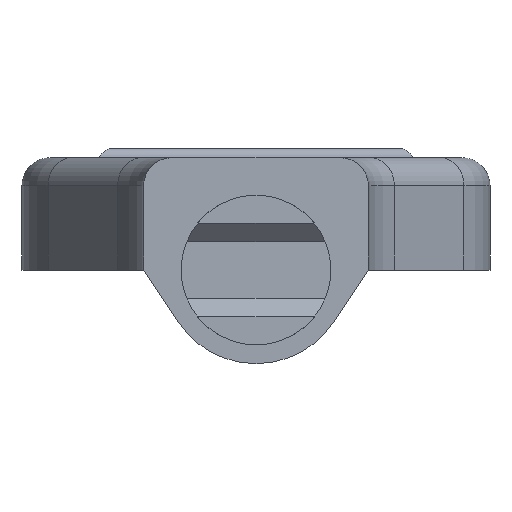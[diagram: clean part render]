
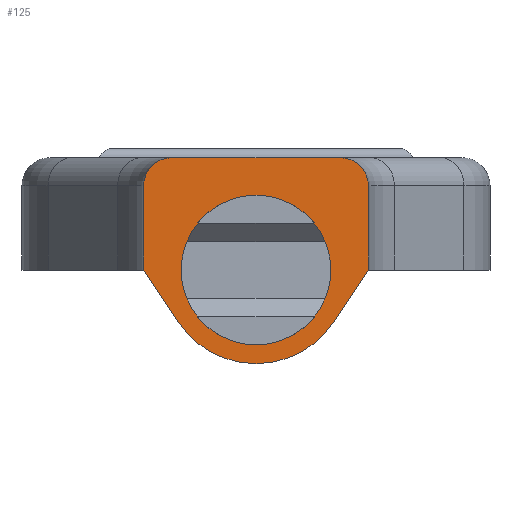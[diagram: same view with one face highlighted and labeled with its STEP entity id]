
A CAD part, left-side view. The second image highlights one B-rep face of the part: STEP entity #125.
In plain terms, the highlighted planar face has unit normal (-1, 0, 0).
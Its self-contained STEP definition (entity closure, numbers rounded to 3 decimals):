
#52=VECTOR('Line Direction',#51,1.) ;
#59=VECTOR('Line Direction',#58,1.) ;
#73=VECTOR('Line Direction',#72,1.) ;
#80=VECTOR('Line Direction',#79,1.) ;
#94=VECTOR('Line Direction',#93,1.) ;
#37=DIRECTION('Axis2P3D Direction',(1.,0.,0.)) ;
#38=DIRECTION('Axis2P3D XDirection',(0.,1.,0.)) ;
#42=DIRECTION('Axis2P3D Direction',(1.,0.,0.)) ;
#51=DIRECTION('Vector Direction',(0.,0.,1.)) ;
#58=DIRECTION('Vector Direction',(0.,0.553,0.833)) ;
#65=DIRECTION('Axis2P3D Direction',(1.,0.,0.)) ;
#72=DIRECTION('Vector Direction',(0.,0.553,-0.833)) ;
#79=DIRECTION('Vector Direction',(0.,0.,1.)) ;
#86=DIRECTION('Axis2P3D Direction',(1.,0.,0.)) ;
#93=DIRECTION('Vector Direction',(0.,1.,0.)) ;
#108=DIRECTION('Axis2P3D Direction',(1.,0.,0.)) ;
#117=DIRECTION('Axis2P3D Direction',(1.,0.,0.)) ;
#36=CARTESIAN_POINT('Axis2P3D Location',(967.981,-476.,158.)) ;
#41=CARTESIAN_POINT('Axis2P3D Location',(967.981,-465.5,162.5)) ;
#45=CARTESIAN_POINT('Vertex',(967.981,-464.,162.5)) ;
#47=CARTESIAN_POINT('Vertex',(967.981,-465.5,164.)) ;
#50=CARTESIAN_POINT('Line Origine',(967.981,-464.,160.25)) ;
#54=CARTESIAN_POINT('Vertex',(967.981,-464.,158.)) ;
#57=CARTESIAN_POINT('Line Origine',(967.981,-464.917,156.618)) ;
#61=CARTESIAN_POINT('Vertex',(967.981,-465.833,155.236)) ;
#64=CARTESIAN_POINT('Axis2P3D Location',(967.981,-470.,158.)) ;
#68=CARTESIAN_POINT('Vertex',(967.981,-474.167,155.236)) ;
#71=CARTESIAN_POINT('Line Origine',(967.981,-475.083,156.618)) ;
#75=CARTESIAN_POINT('Vertex',(967.981,-476.,158.)) ;
#78=CARTESIAN_POINT('Line Origine',(967.981,-476.,160.25)) ;
#82=CARTESIAN_POINT('Vertex',(967.981,-476.,162.5)) ;
#85=CARTESIAN_POINT('Axis2P3D Location',(967.981,-474.5,162.5)) ;
#89=CARTESIAN_POINT('Vertex',(967.981,-474.5,164.)) ;
#92=CARTESIAN_POINT('Line Origine',(967.981,-470.,164.)) ;
#107=CARTESIAN_POINT('Axis2P3D Location',(967.981,-470.,158.)) ;
#111=CARTESIAN_POINT('Vertex',(967.981,-474.,158.)) ;
#113=CARTESIAN_POINT('Vertex',(967.981,-466.,158.)) ;
#116=CARTESIAN_POINT('Axis2P3D Location',(967.981,-470.,158.)) ;
#39=AXIS2_PLACEMENT_3D('Plane Axis2P3D',#36,#37,#38) ;
#43=AXIS2_PLACEMENT_3D('Circle Axis2P3D',#41,#42,$) ;
#66=AXIS2_PLACEMENT_3D('Circle Axis2P3D',#64,#65,$) ;
#87=AXIS2_PLACEMENT_3D('Circle Axis2P3D',#85,#86,$) ;
#109=AXIS2_PLACEMENT_3D('Circle Axis2P3D',#107,#108,$) ;
#118=AXIS2_PLACEMENT_3D('Circle Axis2P3D',#116,#117,$) ;
#124=FACE_BOUND('',#121,.T.) ;
#49=EDGE_CURVE('',#46,#48,#44,.T.) ;
#56=EDGE_CURVE('',#55,#46,#53,.T.) ;
#63=EDGE_CURVE('',#55,#62,#60,.F.) ;
#70=EDGE_CURVE('',#62,#69,#67,.F.) ;
#77=EDGE_CURVE('',#69,#76,#74,.F.) ;
#84=EDGE_CURVE('',#76,#83,#81,.T.) ;
#91=EDGE_CURVE('',#90,#83,#88,.T.) ;
#96=EDGE_CURVE('',#48,#90,#95,.F.) ;
#115=EDGE_CURVE('',#112,#114,#110,.T.) ;
#120=EDGE_CURVE('',#114,#112,#119,.T.) ;
#40=PLANE('Plane',#39) ;
#98=ORIENTED_EDGE('',*,*,#49,.F.) ;
#99=ORIENTED_EDGE('',*,*,#56,.F.) ;
#100=ORIENTED_EDGE('',*,*,#63,.T.) ;
#101=ORIENTED_EDGE('',*,*,#70,.T.) ;
#102=ORIENTED_EDGE('',*,*,#77,.T.) ;
#103=ORIENTED_EDGE('',*,*,#84,.T.) ;
#104=ORIENTED_EDGE('',*,*,#91,.F.) ;
#105=ORIENTED_EDGE('',*,*,#96,.F.) ;
#122=ORIENTED_EDGE('',*,*,#115,.T.) ;
#123=ORIENTED_EDGE('',*,*,#120,.T.) ;
#53=LINE('Line',#50,#52) ;
#60=LINE('Line',#57,#59) ;
#74=LINE('Line',#71,#73) ;
#81=LINE('Line',#78,#80) ;
#95=LINE('Line',#92,#94) ;
#125=ADVANCED_FACE('\X2\51E04F554F53\X0\.8',(#106,#124),#40,.F.) ;
#44=CIRCLE('generated circle',#43,1.5) ;
#67=CIRCLE('generated circle',#66,5.) ;
#88=CIRCLE('generated circle',#87,1.5) ;
#110=CIRCLE('generated circle',#109,4.) ;
#119=CIRCLE('generated circle',#118,4.) ;
#46=VERTEX_POINT('',#45) ;
#48=VERTEX_POINT('',#47) ;
#55=VERTEX_POINT('',#54) ;
#62=VERTEX_POINT('',#61) ;
#69=VERTEX_POINT('',#68) ;
#76=VERTEX_POINT('',#75) ;
#83=VERTEX_POINT('',#82) ;
#90=VERTEX_POINT('',#89) ;
#112=VERTEX_POINT('',#111) ;
#114=VERTEX_POINT('',#113) ;
#97=EDGE_LOOP('',(#98,#99,#100,#101,#102,#103,#104,#105)) ;
#121=EDGE_LOOP('',(#122,#123)) ;
#106=FACE_OUTER_BOUND('',#97,.T.) ;
